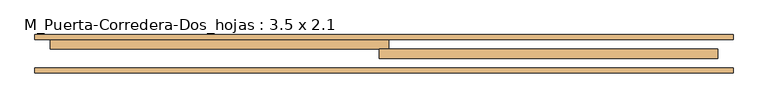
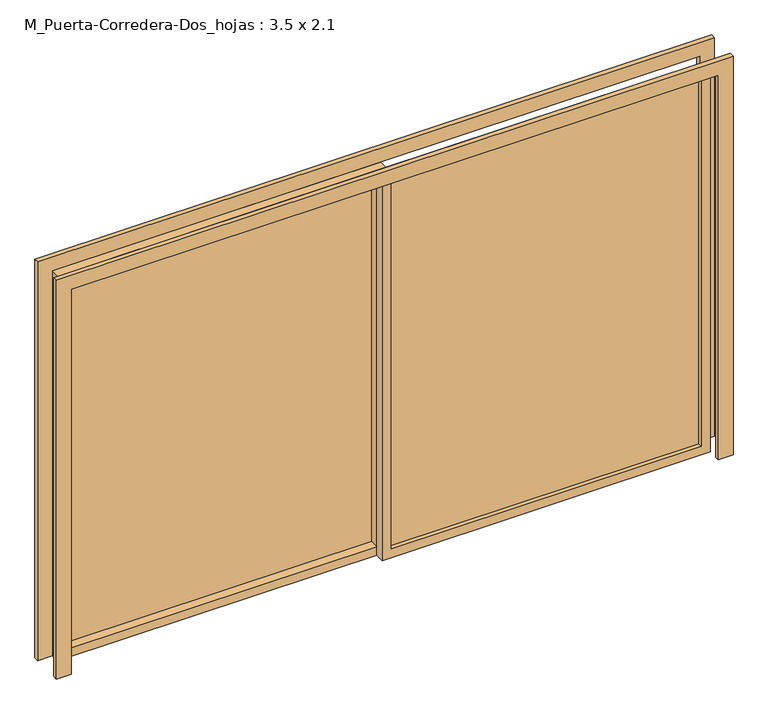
"""IFC4 building model written with IfcOpenShell, lengths in millimetres: door geometry, M_Puerta-Corredera-Dos_hojas : 3.5 x 2.1."""

from ifc_helpers import new_model, si_unit, frame, origin, place, context, project, spatial, polyline, outline, extrude, source, transform, mapped, element, save


def m_puerta_corredera_dos_hojas_3_5_x_2_1_a05799e0(model_context):
    return source(origin(), model_context, "Body", "SweptSolid", [
        extrude(outline(polyline([(0.0, -1830.0), (0.0, -1750.0), (2200.0, -1750.0), (2200.0, 1750.0), (0.0, 1750.0), (0.0, 1830.0), (2280.0, 1830.0), (2280.0, -1830.0), (0.0, -1830.0)])), frame((0.0, 27.0, 0.0), z_axis=(0.0, 1.0, 0.0), x_axis=(0.0, 0.0, 1.0)), (0.0, 0.0, 1.0), 25.0),
        extrude(outline(polyline([(0.0, 1830.0), (2280.0, 1830.0), (2280.0, -1830.0), (0.0, -1830.0), (0.0, -1750.0), (2200.0, -1750.0), (2200.0, 1750.0), (0.0, 1750.0), (0.0, 1830.0)])), frame((0.0, 202.0, 0.0), z_axis=(0.0, 1.0, 0.0), x_axis=(0.0, 0.0, 1.0)), (0.0, 0.0, 1.0), 25.0),
        extrude(outline(polyline([(2200.0, -25.0), (0.0, -25.0), (0.0, 1750.0), (2200.0, 1750.0), (2200.0, -25.0)]), holes=[polyline([(2150.0, 25.0), (2150.0, 1700.0), (50.0, 1700.0), (50.0, 25.0), (2150.0, 25.0)])]), frame((0.0, 102.0, 0.0), z_axis=(0.0, 1.0, 0.0), x_axis=(0.0, 0.0, 1.0)), (0.0, 0.0, 1.0), 50.0),
        extrude(outline(polyline([(2200.0, 25.0), (2200.0, -1750.0), (0.0, -1750.0), (0.0, 25.0), (2200.0, 25.0)]), holes=[polyline([(2150.0, -25.0), (50.0, -25.0), (50.0, -1700.0), (2150.0, -1700.0), (2150.0, -25.0)])]), frame((0.0, 152.0, 0.0), z_axis=(0.0, 1.0, 0.0), x_axis=(0.0, 0.0, 1.0)), (0.0, 0.0, 1.0), 50.0),
        extrude(outline(polyline([(25.0, 130.175), (1700.0, 130.175), (1700.0, 123.825), (25.0, 123.825), (25.0, 130.175)])), frame((0.0, 0.0, 50.0), z_axis=(0.0, 0.0, 1.0), x_axis=(1.0, 0.0, 0.0)), (0.0, 0.0, 1.0), 2100.0),
        extrude(outline(polyline([(-25.0, 200.025), (-1700.0, 200.025), (-1700.0, 206.375), (-25.0, 206.375), (-25.0, 200.025)])), frame((0.0, 0.0, 50.0), z_axis=(0.0, 0.0, 1.0), x_axis=(1.0, 0.0, 0.0)), (0.0, 0.0, 1.0), 2100.0),
    ])


if __name__ == "__main__":
    model = new_model("IFC4")
    model_context = context("Model", 3, world=origin())
    ifc_project = project(units=[si_unit("LENGTHUNIT", "METRE", prefix="MILLI")], contexts=[model_context])
    site = spatial("IfcSite", under=ifc_project)
    building = spatial("IfcBuilding", under=site)
    placement = place(None, origin())
    m_puerta_corredera_dos_hojas_3_5_x_2_1_shape = m_puerta_corredera_dos_hojas_3_5_x_2_1_a05799e0(model_context)
    element("IfcDoor", 1, ObjectType="M_Puerta-Corredera-Dos_hojas : 3.5 x 2.1", at=placement, inside=building, context=model_context, shape_type="MappedRepresentation", body=[
        mapped(m_puerta_corredera_dos_hojas_3_5_x_2_1_shape, transform((0.0, 0.0, 0.0), x_axis=(1.0, 0.0, 0.0), y_axis=(0.0, 1.0, 0.0), z_axis=(0.0, 0.0, 1.0))),
    ])
    save(model, "model.ifc")
